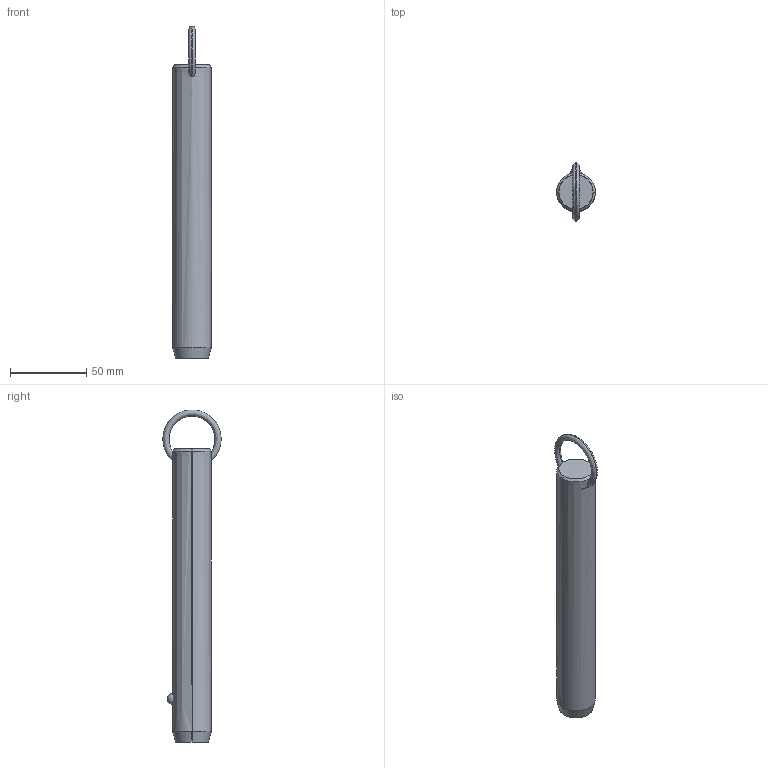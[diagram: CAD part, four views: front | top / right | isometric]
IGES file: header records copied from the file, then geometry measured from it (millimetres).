
Start section: SolidWorks IGES file using analytic representation for surfaces
Global section: file name: C:\Users\liam_\OneDrive\Documents\WORK\Work for WixRoyd\Job Files\J-00019 - Matt Davis CAD Checking\04. CAD Drawings\automotion20190605\P1250.2_v2\P1250.2_v2_20190729_IGES\P1250.100-580.igs; native system: SolidWorks 2017; preprocessor: SolidWorks 2017; author: liam_; date: 190730.174603; units: millimetre
Bounding box: 25.4 x 38.09 x 217.09 mm (x, y, z)
Surface area: 17070.3 mm2 (no closed solid volume)
Topology: 0 solids, 0 shells, 12 faces, 298 edges, 296 vertices
Faces by surface type: revolution 8, bspline 4
